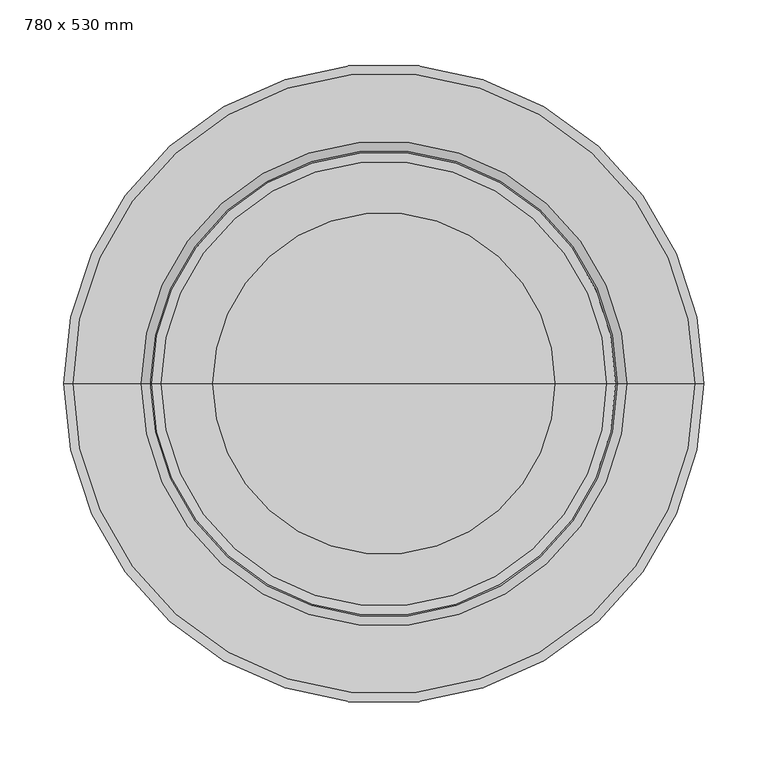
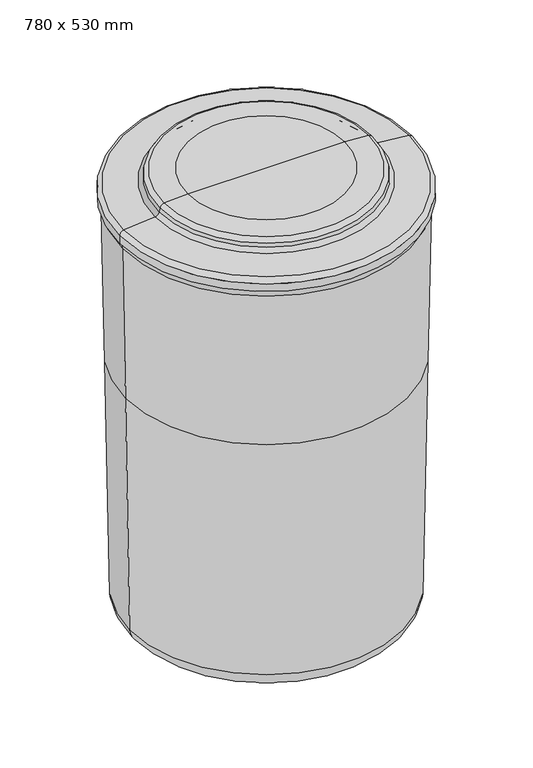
"""IFC4 building model written with IfcOpenShell, lengths in millimetres: proxy geometry, BWT_Bac à sel type 1 : 780 x 530 mm."""

import ifcopenshell
import ifcopenshell.guid

model = None  # the IFC model being written
_history = None  # IfcOwnerHistory: only IFC2X3 demands one
_inside = {}  # id of a spatial element -> (the spatial element, [elements in it])
_under = {}  # id of a project, library or spatial element -> (it, [spatial elements below it])
_declared = {}  # id of a project -> (the project, [libraries it declares])
_typed = {}  # id of a type object -> (the type object, [elements of that type])
_made_of = {}  # id of a material, layer set ... -> (it, [elements and type objects made of it])


def new_model(schema):
    """Start an empty IFC model of exactly this schema.

    Asked for "IFC4X3", IfcOpenShell would pick the latest addendum, in which some entities
    have other attributes; the version numbers below select the first issue.
    IFC2X3 requires an IfcOwnerHistory on every rooted entity: one is made here for all.
    """
    global model, _history
    if schema == "IFC4X3":
        model = ifcopenshell.file(schema_version=(4, 3, 0, 0))
    else:
        model = ifcopenshell.file(schema=schema)
    _inside.clear()
    _under.clear()
    _declared.clear()
    _typed.clear()
    _made_of.clear()
    _history = None
    if model.schema == "IFC2X3":
        org = make("IfcOrganization", Name="unknown")
        user = make(
            "IfcPersonAndOrganization",
            ThePerson=make("IfcPerson", FamilyName="unknown"),
            TheOrganization=org,
        )
        app = make(
            "IfcApplication",
            ApplicationDeveloper=org,
            Version="unknown",
            ApplicationFullName="unknown",
            ApplicationIdentifier="unknown",
        )
        _history = make(
            "IfcOwnerHistory",
            OwningUser=user,
            OwningApplication=app,
            ChangeAction="ADDED",
            CreationDate=0,
        )
    return model


def make(cls, **values):
    """One entity of the class cls with the attributes given. An attribute that is None is left unset."""
    return model.create_entity(
        cls, **{name: value for name, value in values.items() if value is not None}
    )


def rooted(cls, **values):
    """An entity with a GlobalId (a new one), such as an element, a storey or a relation."""
    return make(cls, GlobalId=ifcopenshell.guid.new(), OwnerHistory=_history, **values)


def si_unit(unit_type, name, prefix=None):
    """IfcSIUnit, for example si_unit("LENGTHUNIT", "METRE", prefix="MILLI")."""
    return make("IfcSIUnit", UnitType=unit_type, Prefix=prefix, Name=name)


def assignment(units):
    """IfcUnitAssignment: the units of a project."""
    return None if units is None else make("IfcUnitAssignment", Units=units)


def point(xyz):
    """IfcCartesianPoint."""
    return None if xyz is None else make("IfcCartesianPoint", Coordinates=xyz)


def direction(xyz):
    """IfcDirection."""
    return None if xyz is None else make("IfcDirection", DirectionRatios=xyz)


def frame(location, z_axis=None, x_axis=None):
    """IfcAxis2Placement3D, a coordinate frame: its origin and axes. An axis left out is left unset."""
    return make(
        "IfcAxis2Placement3D",
        Location=point(location),
        Axis=direction(z_axis),
        RefDirection=direction(x_axis),
    )


def origin():
    """The frame at (0, 0, 0) with its axes left unset."""
    return frame((0.0, 0.0, 0.0))


def place(relative_to, where):
    """IfcLocalPlacement: puts the frame where relative to a parent placement (None: the world)."""
    return make(
        "IfcLocalPlacement", PlacementRelTo=relative_to, RelativePlacement=where
    )


def context(
    kind, dimensions, precision=None, world=None, true_north=None, identifier=None
):
    """IfcGeometricRepresentationContext, for example the 3D "Model" context."""
    return make(
        "IfcGeometricRepresentationContext",
        ContextIdentifier=identifier,
        ContextType=kind,
        CoordinateSpaceDimension=dimensions,
        Precision=precision,
        WorldCoordinateSystem=world,
        TrueNorth=true_north,
    )


def project(units=None, contexts=None):
    """IfcProject with its units and contexts."""
    return rooted(
        "IfcProject",
        Name="project",
        RepresentationContexts=contexts,
        UnitsInContext=assignment(units),
    )


def spatial(cls, under=None, at=None, **own):
    """A site, building, storey or space (cls), placed at a placement, below another one or the project."""
    s = rooted(cls, ObjectPlacement=at, **own)
    if under is not None:
        _under.setdefault(under.id(), (under, []))[1].append(s)
    return s


def polyline(points):
    """IfcPolyline through the points."""
    return make("IfcPolyline", Points=[point(p) for p in points])


def circle_curve(where, radius):
    """IfcCircle in the frame where."""
    return make("IfcCircle", Position=where, Radius=radius)


def ellipse_curve(where, semi_axis1, semi_axis2):
    """IfcEllipse in the frame where."""
    return make(
        "IfcEllipse", Position=where, SemiAxis1=semi_axis1, SemiAxis2=semi_axis2
    )


def trimmed(basis, trim1, trim2, sense, master):
    """IfcTrimmedCurve: the piece of a basis curve between two trims."""
    return make(
        "IfcTrimmedCurve",
        BasisCurve=basis,
        Trim1=trim1,
        Trim2=trim2,
        SenseAgreement=sense,
        MasterRepresentation=master,
    )


def shape(context_of_items, identifier, shape_type, items):
    """IfcShapeRepresentation: the items that make up one representation, for example the "Body"."""
    return make(
        "IfcShapeRepresentation",
        ContextOfItems=context_of_items,
        RepresentationIdentifier=identifier,
        RepresentationType=shape_type,
        Items=items,
    )


def source(mapping_origin, context_of_items, identifier, shape_type, items):
    """IfcRepresentationMap: a shape defined once, which mapped items show again and again."""
    return make(
        "IfcRepresentationMap",
        MappingOrigin=mapping_origin,
        MappedRepresentation=shape(context_of_items, identifier, shape_type, items),
    )


def transform(
    local_origin,
    x_axis=None,
    y_axis=None,
    z_axis=None,
    scale=None,
    scale2=None,
    scale3=None,
    uniform=True,
):
    """IfcCartesianTransformationOperator3D, or its non-uniform kind. x_axis, y_axis, z_axis: its Axis1, 2, 3."""
    if uniform:
        return make(
            "IfcCartesianTransformationOperator3D",
            Axis1=direction(x_axis),
            Axis2=direction(y_axis),
            LocalOrigin=point(local_origin),
            Scale=scale,
            Axis3=direction(z_axis),
        )
    return make(
        "IfcCartesianTransformationOperator3DnonUniform",
        Axis1=direction(x_axis),
        Axis2=direction(y_axis),
        LocalOrigin=point(local_origin),
        Scale=scale,
        Axis3=direction(z_axis),
        Scale2=scale2,
        Scale3=scale3,
    )


def mapped(mapping_source, mapping_target):
    """IfcMappedItem: shows the shape of a source again, moved by a transform."""
    return make(
        "IfcMappedItem", MappingSource=mapping_source, MappingTarget=mapping_target
    )


def made_of(thing, what):
    """Note that an element or type object is made of a material, layer set ...; save() writes the relation."""
    if what is not None:
        _made_of.setdefault(what.id(), (what, []))[1].append(thing)
    return thing


def element(
    cls,
    number,
    at=None,
    inside=None,
    cuts=None,
    type_object=None,
    material=None,
    context=None,
    identifier="Body",
    shape_type=None,
    held_by="IfcProductDefinitionShape",
    body=None,
    shapes=None,
    **own,
):
    """One element of the class cls, such as IfcWall. Its Tag is "e" and its number.

    at: its placement. inside: the storey or other place that contains it. cuts: it is an
    opening in that element (IfcRelVoidsElement). A single representation is given by context,
    identifier, shape_type and body (its items); several are given by shapes. held_by: the class
    of the entity that holds the representations. save() writes the other relations.
    """
    e = rooted(cls, Tag="e%d" % number, ObjectPlacement=at, **own)
    if body is not None:
        shapes = [shape(context, identifier, shape_type, body)]
    if shapes is not None:
        e.Representation = make(held_by, Representations=shapes)
    if inside is not None:
        _inside.setdefault(inside.id(), (inside, []))[1].append(e)
    if cuts is not None:
        rooted(
            "IfcRelVoidsElement", RelatingBuildingElement=cuts, RelatedOpeningElement=e
        )
    if type_object is not None:
        _typed.setdefault(type_object.id(), (type_object, []))[1].append(e)
    return made_of(e, material)


def aggregate(whole, parts):
    """IfcRelAggregates: a whole, such as a stair, and the parts it consists of."""
    return rooted("IfcRelAggregates", RelatingObject=whole, RelatedObjects=parts)


def save(model, path):
    """Write the relations noted so far, then the file.

    IfcRelAggregates (storeys below a building ...), IfcRelContainedInSpatialStructure (elements
    in a storey), IfcRelDefinesByType, IfcRelAssociatesMaterial and IfcRelDeclares: one each for
    every whole, place, type object, material and project.
    """
    for whole, parts in _under.values():
        aggregate(whole, parts)
    for where, things in _inside.values():
        rooted(
            "IfcRelContainedInSpatialStructure",
            RelatedElements=things,
            RelatingStructure=where,
        )
    for kind, things in _typed.values():
        rooted("IfcRelDefinesByType", RelatedObjects=things, RelatingType=kind)
    for what, things in _made_of.values():
        rooted("IfcRelAssociatesMaterial", RelatedObjects=things, RelatingMaterial=what)
    for by, libraries in _declared.values():
        rooted("IfcRelDeclares", RelatingContext=by, RelatedDefinitions=libraries)
    model.write(path)


def plane_surface(at):
    """IfcPlane: the flat surface through the origin of the frame at, square to its z axis."""
    return make("IfcPlane", Position=at)


def cylinder_surface(at, radius):
    """IfcCylindricalSurface: all points at the distance radius from the z axis of the frame at."""
    return make("IfcCylindricalSurface", Position=at, Radius=radius)


def revolved_surface(curve, axis_point, axis_direction):
    """IfcSurfaceOfRevolution: the curve turned about the line through axis_point along axis_direction."""
    return make(
        "IfcSurfaceOfRevolution",
        SweptCurve=make("IfcArbitraryOpenProfileDef", ProfileType="CURVE", Curve=curve),
        AxisPosition=make("IfcAxis1Placement", Location=point(axis_point), Axis=direction(axis_direction)),
    )


def advanced_brep(points, edges, surfaces, faces):
    """IfcAdvancedBrep: a solid bounded by faces that lie on surfaces and meet in shared edges.

    An edge is (start, end): straight between two places in points (the first is 0);
    or (start, end, curve); or (start, end, curve, False) where it runs against its curve.
    A face is (place in surfaces, loops), or (place, loops, False) where it looks against
    its surface's normal. A loop lists edges by number (the first is 1), with a minus sign
    where the edge is run from its end to its start. The first loop is the outer one.
    """
    corners = [point(p) for p in points]
    vertices = [make("IfcVertexPoint", VertexGeometry=c) for c in corners]
    made = []
    for start, end, *more in edges:
        made.append(
            make(
                "IfcEdgeCurve",
                EdgeStart=vertices[start],
                EdgeEnd=vertices[end],
                EdgeGeometry=more[0] if more else make("IfcPolyline", Points=[corners[start], corners[end]]),
                SameSense=more[1] if len(more) > 1 else True,
            )
        )
    hull = []
    for where, loops, *sense in faces:
        bounds = []
        for j, loop in enumerate(loops):
            ring = [make("IfcOrientedEdge", EdgeElement=made[abs(k) - 1], Orientation=k > 0) for k in loop]
            bounds.append(
                make(
                    "IfcFaceOuterBound" if j == 0 else "IfcFaceBound",
                    Bound=make("IfcEdgeLoop", EdgeList=ring),
                    Orientation=True,
                )
            )
        hull.append(make("IfcAdvancedFace", Bounds=bounds, FaceSurface=surfaces[where], SameSense=sense[0] if sense else True))
    return make("IfcAdvancedBrep", Outer=make("IfcClosedShell", CfsFaces=hull))


def proxy_780_x_530_mm_158101ac(model_context):
    return source(origin(), model_context, "Body", "AdvancedBrep", [
        advanced_brep(
        [(239.9607428, 0.0, 448.7394346), (-239.9607428, 0.0, 448.7394346), (-245.5, 0.0, 720.0), (245.5, 0.0, 720.0), (232.9173957, 0.0, 28.3474108), (-232.9173957, 0.0, 28.3474108), (0.0, 0.0, 0.0), (-205.0, 0.0, 0.0), (205.0, 0.0, 0.0), (133.7953745, 0.0, 780.0), (-133.7953745, 0.0, 780.0), (0.0, 0.0, 780.0), (174.1452336, 0.0, 777.7126502), (-174.1452336, 0.0, 777.7126502), (181.605008, 0.0, 771.1127994), (-181.605008, 0.0, 771.1127994), (182.703396, 0.0, 764.8835314), (-182.703396, 0.0, 764.8835314), (189.8846121, 0.0, 758.3031593), (-189.8846121, 0.0, 758.3031593), (243.1972459, 0.0, 753.6389082), (-243.1972459, 0.0, 753.6389082), (250.5, 0.0, 745.6693506), (-250.5, 0.0, 745.6693506), (250.5, 0.0, 732.0), (-250.5, 0.0, 732.0), (248.0506787, 0.0, 732.0), (-248.0506787, 0.0, 732.0)],
        [
            (0, 1, circle_curve(frame((0.0, 0.0, 448.7394346), z_axis=(0.0, 0.0, 1.0), x_axis=(-1.0, 0.0, 0.0)), 239.9607428)),
            (1, 2),
            (2, 3, circle_curve(frame((0.0, 0.0, 720.0), z_axis=(0.0, 0.0, -1.0), x_axis=(-1.0, 0.0, 0.0)), 245.5)),
            (3, 0),
            (1, 0, circle_curve(frame((0.0, 0.0, 448.7394346), z_axis=(0.0, 0.0, 1.0), x_axis=(-1.0, 0.0, 0.0)), 239.9607428)),
            (3, 2, circle_curve(frame((0.0, 0.0, 720.0), z_axis=(0.0, 0.0, -1.0), x_axis=(-1.0, 0.0, 0.0)), 245.5)),
            (4, 5, circle_curve(frame((0.0, 0.0, 28.3474108), z_axis=(0.0, 0.0, 1.0), x_axis=(-1.0, 0.0, 0.0)), 232.9173957)),
            (5, 1),
            (0, 4),
            (5, 4, circle_curve(frame((0.0, 0.0, 28.3474108), z_axis=(0.0, 0.0, 1.0), x_axis=(-1.0, 0.0, 0.0)), 232.9173957)),
            (6, 7),
            (7, 8, circle_curve(frame((0.0, 0.0, 0.0), z_axis=(0.0, 0.0, -1.0), x_axis=(-1.0, 0.0, 0.0)), 205.0)),
            (8, 6),
            (8, 7, circle_curve(frame((0.0, 0.0, 0.0), z_axis=(0.0, 0.0, -1.0), x_axis=(-1.0, 0.0, 0.0)), 205.0)),
            (9, 10, circle_curve(frame((0.0, 0.0, 780.0), z_axis=(0.0, 0.0, 1.0), x_axis=(-1.0, 0.0, 0.0)), 133.7953745)),
            (10, 11),
            (11, 9),
            (10, 9, circle_curve(frame((0.0, 0.0, 780.0), z_axis=(0.0, 0.0, 1.0), x_axis=(-1.0, 0.0, 0.0)), 133.7953745)),
            (12, 13, circle_curve(frame((0.0, 0.0, 777.7126502), z_axis=(0.0, 0.0, 1.0), x_axis=(-1.0, 0.0, 0.0)), 174.1452336)),
            (13, 10),
            (9, 12),
            (13, 12, circle_curve(frame((0.0, 0.0, 777.7126502), z_axis=(0.0, 0.0, 1.0), x_axis=(-1.0, 0.0, 0.0)), 174.1452336)),
            (14, 15, circle_curve(frame((0.0, 0.0, 771.1127994), z_axis=(0.0, 0.0, 1.0), x_axis=(-1.0, 0.0, 0.0)), 181.605008)),
            (15, 13, circle_curve(frame((-173.726546, 0.0, 769.723614), z_axis=(0.0, 1.0, 0.0), x_axis=(1.0, 0.0, 0.0)), 8.0)),
            (12, 14, circle_curve(frame((173.726546, 0.0, 769.723614), z_axis=(0.0, 1.0, 0.0), x_axis=(-1.0, 0.0, 0.0)), 8.0)),
            (15, 14, circle_curve(frame((0.0, 0.0, 771.1127994), z_axis=(0.0, 0.0, 1.0), x_axis=(-1.0, 0.0, 0.0)), 181.605008)),
            (16, 17, circle_curve(frame((0.0, 0.0, 764.8835314), z_axis=(0.0, 0.0, 1.0), x_axis=(-1.0, 0.0, 0.0)), 182.703396)),
            (17, 15),
            (14, 16),
            (17, 16, circle_curve(frame((0.0, 0.0, 764.8835314), z_axis=(0.0, 0.0, 1.0), x_axis=(-1.0, 0.0, 0.0)), 182.703396)),
            (18, 19, circle_curve(frame((0.0, 0.0, 758.3031593), z_axis=(0.0, 0.0, 1.0), x_axis=(-1.0, 0.0, 0.0)), 189.8846121)),
            (19, 17, circle_curve(frame((-190.581858, 0.0, 766.2727169), z_axis=(0.0, -1.0, 0.0), x_axis=(1.0, 0.0, 0.0)), 8.0)),
            (16, 18, circle_curve(frame((190.581858, 0.0, 766.2727169), z_axis=(0.0, -1.0, 0.0), x_axis=(-1.0, 0.0, 0.0)), 8.0)),
            (19, 18, circle_curve(frame((0.0, 0.0, 758.3031593), z_axis=(0.0, 0.0, 1.0), x_axis=(-1.0, 0.0, 0.0)), 189.8846121)),
            (20, 21, circle_curve(frame((0.0, 0.0, 753.6389082), z_axis=(0.0, 0.0, 1.0), x_axis=(-1.0, 0.0, 0.0)), 243.1972459)),
            (21, 19),
            (18, 20),
            (21, 20, circle_curve(frame((0.0, 0.0, 753.6389082), z_axis=(0.0, 0.0, 1.0), x_axis=(-1.0, 0.0, 0.0)), 243.1972459)),
            (22, 23, circle_curve(frame((0.0, 0.0, 745.6693506), z_axis=(0.0, 0.0, 1.0), x_axis=(-1.0, 0.0, 0.0)), 250.5)),
            (23, 21, circle_curve(frame((-242.5, 0.0, 745.6693506), z_axis=(0.0, 1.0, 0.0), x_axis=(1.0, 0.0, 0.0)), 8.0)),
            (20, 22, circle_curve(frame((242.5, 0.0, 745.6693506), z_axis=(0.0, 1.0, 0.0), x_axis=(-1.0, 0.0, 0.0)), 8.0)),
            (23, 22, circle_curve(frame((0.0, 0.0, 745.6693506), z_axis=(0.0, 0.0, 1.0), x_axis=(-1.0, 0.0, 0.0)), 250.5)),
            (24, 25, circle_curve(frame((0.0, 0.0, 732.0), z_axis=(0.0, 0.0, 1.0), x_axis=(-1.0, 0.0, 0.0)), 250.5)),
            (25, 23),
            (22, 24),
            (25, 24, circle_curve(frame((0.0, 0.0, 732.0), z_axis=(0.0, 0.0, 1.0), x_axis=(-1.0, 0.0, 0.0)), 250.5)),
            (26, 27, circle_curve(frame((0.0, 0.0, 732.0), z_axis=(0.0, 0.0, 1.0), x_axis=(-1.0, 0.0, 0.0)), 248.0506787)),
            (27, 25),
            (24, 26),
            (27, 26, circle_curve(frame((0.0, 0.0, 732.0), z_axis=(0.0, 0.0, 1.0), x_axis=(-1.0, 0.0, 0.0)), 248.0506787)),
            (2, 27),
            (26, 3),
            (7, 5, circle_curve(frame((-203.924297, 0.0, 28.9800425), z_axis=(0.0, 1.0, 0.0), x_axis=(1.0, 0.0, 0.0)), 29.0)),
            (4, 8, circle_curve(frame((203.924297, 0.0, 28.9800425), z_axis=(0.0, 1.0, 0.0), x_axis=(-1.0, 0.0, 0.0)), 29.0)),
        ],
        [
            revolved_surface(polyline([(-245.5, 0.0, 720.0), (-239.9607428, 0.0, 448.7394346)]), (0.0, 0.0, 2204.3150031), (0.0, 0.0, -1.0)),
            revolved_surface(polyline([(-239.9607428, 0.0, 448.7394346), (-232.9173957, 0.0, 28.3474108)]), (0.0, 0.0, 2204.3150031), (0.0, 0.0, -1.0)),
            plane_surface(frame((0.0, 0.0, 0.0), z_axis=(0.0, 0.0, -1.0), x_axis=(-1.0, 0.0, 0.0))),
            plane_surface(frame((0.0, 0.0, 780.0), z_axis=(0.0, 0.0, 1.0), x_axis=(-1.0, 0.0, 0.0))),
            revolved_surface(polyline([(-133.7953745, 0.0, 780.0), (-174.1452336, 0.0, 777.7126502)]), (0.0, 0.0, 2204.3150031), (0.0, 0.0, -1.0)),
            revolved_surface(trimmed(ellipse_curve(frame((-173.726546, 0.0, 769.723614), z_axis=(0.0, -1.0, 0.0), x_axis=(1.0, 0.0, 0.0)), 8.0, 8.0), [point((-174.1452336, 0.0, 777.7126502))], [point((-181.605008, 0.0, 771.1127994))], True, "CARTESIAN"), (0.0, 0.0, 2204.3150031), (0.0, 0.0, -1.0)),
            revolved_surface(polyline([(-181.605008, 0.0, 771.1127994), (-182.703396, 0.0, 764.8835314)]), (0.0, 0.0, 2204.3150031), (0.0, 0.0, -1.0)),
            revolved_surface(trimmed(ellipse_curve(frame((-190.581858, 0.0, 766.2727169), z_axis=(0.0, 1.0, 0.0), x_axis=(1.0, 0.0, 0.0)), 8.0, 8.0), [point((-182.703396, 0.0, 764.8835314))], [point((-189.8846121, 0.0, 758.3031593))], True, "CARTESIAN"), (0.0, 0.0, 2204.3150031), (0.0, 0.0, -1.0)),
            revolved_surface(polyline([(-189.8846121, 0.0, 758.3031593), (-243.1972459, 0.0, 753.6389082)]), (0.0, 0.0, 2204.3150031), (0.0, 0.0, -1.0)),
            revolved_surface(trimmed(ellipse_curve(frame((-242.5, 0.0, 745.6693506), z_axis=(0.0, -1.0, 0.0), x_axis=(1.0, 0.0, 0.0)), 8.0, 8.0), [point((-243.1972459, 0.0, 753.6389082))], [point((-250.5, 0.0, 745.6693506))], True, "CARTESIAN"), (0.0, 0.0, 2204.3150031), (0.0, 0.0, -1.0)),
            cylinder_surface(frame((0.0, 0.0, 2204.3150031), z_axis=(0.0, 0.0, -1.0), x_axis=(-1.0, 0.0, 0.0)), 250.5),
            plane_surface(frame((0.0, 0.0, 732.0), z_axis=(0.0, 0.0, -1.0), x_axis=(-1.0, 0.0, 0.0))),
            revolved_surface(polyline([(-248.0506787, 0.0, 732.0), (-245.5, 0.0, 720.0)]), (0.0, 0.0, 2204.3150031), (0.0, 0.0, -1.0)),
            revolved_surface(trimmed(ellipse_curve(frame((-203.924297, 0.0, 28.9800425), z_axis=(0.0, -1.0, 0.0), x_axis=(1.0, 0.0, 0.0)), 29.0, 29.0), [point((-232.9173957, 0.0, 28.3474108))], [point((-205.0, 0.0, 0.0))], True, "CARTESIAN"), (0.0, 0.0, 2204.3150031), (0.0, 0.0, -1.0)),
        ],
        [
            (0, [[1, 2, 3, 4]]),
            (0, [[5, -4, 6, -2]]),
            (1, [[7, 8, -1, 9]]),
            (1, [[10, -9, -5, -8]]),
            (2, [[11, 12, 13]]),
            (2, [[-13, 14, -11]]),
            (3, [[15, 16, 17]]),
            (3, [[18, -17, -16]]),
            (4, [[19, 20, -15, 21]]),
            (4, [[22, -21, -18, -20]]),
            (5, [[23, 24, -19, 25]]),
            (5, [[26, -25, -22, -24]]),
            (6, [[27, 28, -23, 29]]),
            (6, [[30, -29, -26, -28]]),
            (7, [[31, 32, -27, 33]]),
            (7, [[34, -33, -30, -32]]),
            (8, [[35, 36, -31, 37]]),
            (8, [[38, -37, -34, -36]]),
            (9, [[39, 40, -35, 41]]),
            (9, [[42, -41, -38, -40]]),
            (10, [[43, 44, -39, 45]]),
            (10, [[46, -45, -42, -44]]),
            (11, [[47, 48, -43, 49]]),
            (11, [[50, -49, -46, -48]]),
            (12, [[-3, 51, -47, 52]]),
            (12, [[-6, -52, -50, -51]]),
            (13, [[-12, 53, -7, 54]]),
            (13, [[-14, -54, -10, -53]]),
        ],
    ),
    ])


if __name__ == "__main__":
    model = new_model("IFC4")
    model_context = context("Model", 3, world=origin())
    ifc_project = project(units=[si_unit("LENGTHUNIT", "METRE", prefix="MILLI")], contexts=[model_context])
    site = spatial("IfcSite", under=ifc_project)
    building = spatial("IfcBuilding", under=site)
    placement = place(None, origin())
    proxy_780_x_530_mm_shape = proxy_780_x_530_mm_158101ac(model_context)
    element("IfcBuildingElementProxy", 1, Name="BWT_Bac à sel type 1 : 780 x 530 mm", ObjectType="BWT_Bac à sel type 1 : 780 x 530 mm", at=placement, inside=building, context=model_context, shape_type="MappedRepresentation", body=[
        mapped(proxy_780_x_530_mm_shape, transform((0.0, 0.0, 0.0), x_axis=(1.0, 0.0, 0.0), y_axis=(0.0, 1.0, 0.0), z_axis=(0.0, 0.0, 1.0))),
    ])
    save(model, "model.ifc")
